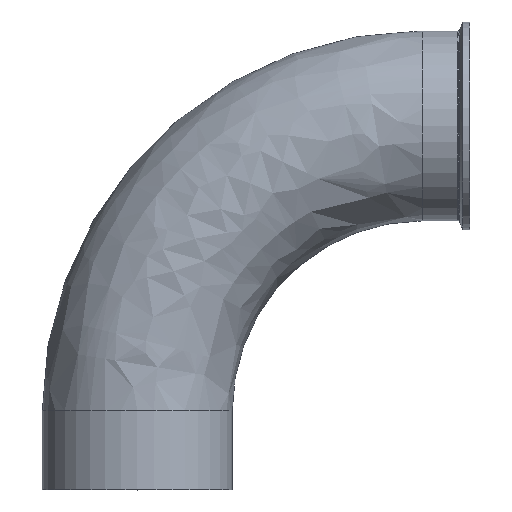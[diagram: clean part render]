
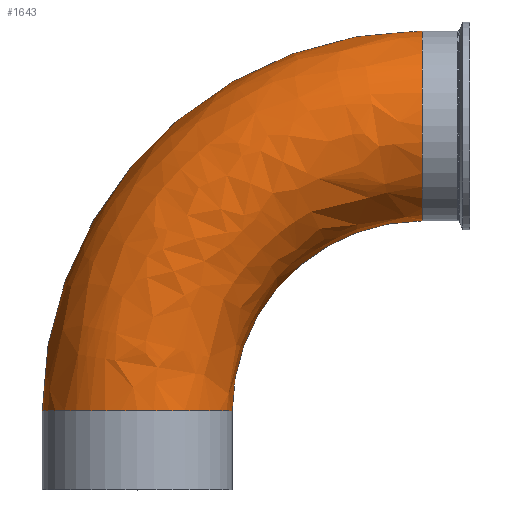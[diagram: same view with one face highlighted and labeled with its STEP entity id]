
A CAD part, top view. The second image highlights one B-rep face of the part: STEP entity #1643.
In plain terms, the highlighted free-form (B-spline) face has degree [3, 3] with [4, 4] control points.
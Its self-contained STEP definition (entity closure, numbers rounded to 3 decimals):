
#16 = DIRECTION ( 'NONE',  ( -1., 0., 0. ) ) ;
#21 = DIRECTION ( 'NONE',  ( 0., 1., 0. ) ) ;
#32 = CARTESIAN_POINT ( 'NONE',  ( 228.6, 292.1, 0. ) ) ;
#44 = FACE_OUTER_BOUND ( 'NONE', #2315, .T. ) ;
#76 = AXIS2_PLACEMENT_3D ( 'NONE', #32, #16, #21 ) ;
#141 = CARTESIAN_POINT ( 'NONE',  ( 228.6, 215.9, 0. ) ) ;
#215 = CARTESIAN_POINT ( 'NONE',  ( -76.2, 63.5, 152.4 ) ) ;
#255 = EDGE_CURVE ( 'NONE', #1221, #1938, #1927, .T. ) ;
#263 = EDGE_CURVE ( 'NONE', #1221, #2161, #982, .T. ) ;
#388 = DIRECTION ( 'NONE',  ( 0., 0., -1. ) ) ;
#417 = CARTESIAN_POINT ( 'NONE',  ( 228.6, 368.3, 0. ) ) ;
#419 = AXIS2_PLACEMENT_3D ( 'NONE', #556, #565, #572 ) ;
#487 = CIRCLE ( 'NONE', #76, 76.2 ) ;
#540 = CARTESIAN_POINT ( 'NONE',  ( 76.2, 63.5, 152.4 ) ) ;
#556 = CARTESIAN_POINT ( 'NONE',  ( 0., 63.5, 0. ) ) ;
#565 = DIRECTION ( 'NONE',  ( 0., 1., 0. ) ) ;
#572 = DIRECTION ( 'NONE',  ( -1., 0., 0. ) ) ;
#588 =( BOUNDED_SURFACE ( )  B_SPLINE_SURFACE ( 3, 3, ( 
 ( #1106, #763, #595, #417 ),
 ( #215, #2321, #1070, #2062 ),
 ( #540, #1012, #1025, #1037 ),
 ( #1052, #1084, #1328, #1759 ) ),
 .UNSPECIFIED., .F., .F., .F. ) 
 B_SPLINE_SURFACE_WITH_KNOTS ( ( 4, 4 ),
 ( 4, 4 ),
 ( 0., 1. ),
 ( 0., 1. ),
 .UNSPECIFIED. ) 
 GEOMETRIC_REPRESENTATION_ITEM ( )  RATIONAL_B_SPLINE_SURFACE ( (
 ( 1., 0.805, 0.805, 1.),
 ( 0.333, 0.268, 0.268, 0.333),
 ( 0.333, 0.268, 0.268, 0.333),
 ( 1., 0.805, 0.805, 1.) ) ) 
 REPRESENTATION_ITEM ( '' )  SURFACE ( )  );
#595 = CARTESIAN_POINT ( 'NONE',  ( 50.052, 368.3, 0. ) ) ;
#607 = ORIENTED_EDGE ( 'NONE', *, *, #263, .F. ) ;
#763 = CARTESIAN_POINT ( 'NONE',  ( -76.2, 242.048, 0. ) ) ;
#897 = EDGE_CURVE ( 'NONE', #1677, #2161, #487, .T. ) ;
#946 = ORIENTED_EDGE ( 'NONE', *, *, #897, .T. ) ;
#982 = CIRCLE ( 'NONE', #1974, 304.8 ) ;
#1012 = CARTESIAN_POINT ( 'NONE',  ( 76.2, 152.774, 152.4 ) ) ;
#1025 = CARTESIAN_POINT ( 'NONE',  ( 139.326, 215.9, 152.4 ) ) ;
#1037 = CARTESIAN_POINT ( 'NONE',  ( 228.6, 215.9, 152.4 ) ) ;
#1052 = CARTESIAN_POINT ( 'NONE',  ( 76.2, 63.5, 0. ) ) ;
#1070 = CARTESIAN_POINT ( 'NONE',  ( 50.052, 368.3, 152.4 ) ) ;
#1084 = CARTESIAN_POINT ( 'NONE',  ( 76.2, 152.774, 0. ) ) ;
#1086 = ORIENTED_EDGE ( 'NONE', *, *, #255, .T. ) ;
#1106 = CARTESIAN_POINT ( 'NONE',  ( -76.2, 63.5, 0. ) ) ;
#1137 = ORIENTED_EDGE ( 'NONE', *, *, #2325, .T. ) ;
#1221 = VERTEX_POINT ( 'NONE', #1989 ) ;
#1328 = CARTESIAN_POINT ( 'NONE',  ( 139.326, 215.9, 0. ) ) ;
#1448 = AXIS2_PLACEMENT_3D ( 'NONE', #1471, #388, #1674 ) ;
#1471 = CARTESIAN_POINT ( 'NONE',  ( 228.6, 63.5, 0. ) ) ;
#1603 = CARTESIAN_POINT ( 'NONE',  ( 76.2, 63.5, 0. ) ) ;
#1643 = ADVANCED_FACE ( 'NONE', ( #44 ), #588, .T. ) ;
#1674 = DIRECTION ( 'NONE',  ( -1., 0., 0. ) ) ;
#1677 = VERTEX_POINT ( 'NONE', #141 ) ;
#1704 = CARTESIAN_POINT ( 'NONE',  ( 228.6, 368.3, 0. ) ) ;
#1759 = CARTESIAN_POINT ( 'NONE',  ( 228.6, 215.9, 0. ) ) ;
#1868 = CIRCLE ( 'NONE', #1448, 152.4 ) ;
#1927 = CIRCLE ( 'NONE', #419, 76.2 ) ;
#1938 = VERTEX_POINT ( 'NONE', #1603 ) ;
#1960 = DIRECTION ( 'NONE',  ( -1., 0., 0. ) ) ;
#1974 = AXIS2_PLACEMENT_3D ( 'NONE', #2009, #1997, #1960 ) ;
#1989 = CARTESIAN_POINT ( 'NONE',  ( -76.2, 63.5, 0. ) ) ;
#1997 = DIRECTION ( 'NONE',  ( 0., 0., -1. ) ) ;
#2009 = CARTESIAN_POINT ( 'NONE',  ( 228.6, 63.5, 0. ) ) ;
#2062 = CARTESIAN_POINT ( 'NONE',  ( 228.6, 368.3, 152.4 ) ) ;
#2161 = VERTEX_POINT ( 'NONE', #1704 ) ;
#2315 = EDGE_LOOP ( 'NONE', ( #1086, #1137, #946, #607 ) ) ;
#2321 = CARTESIAN_POINT ( 'NONE',  ( -76.2, 242.048, 152.4 ) ) ;
#2325 = EDGE_CURVE ( 'NONE', #1938, #1677, #1868, .T. ) ;
